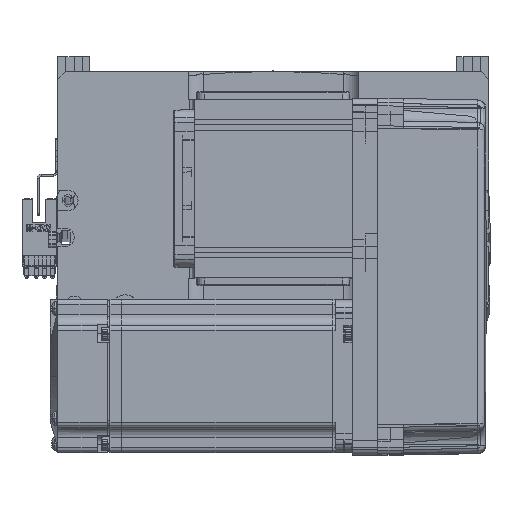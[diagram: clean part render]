
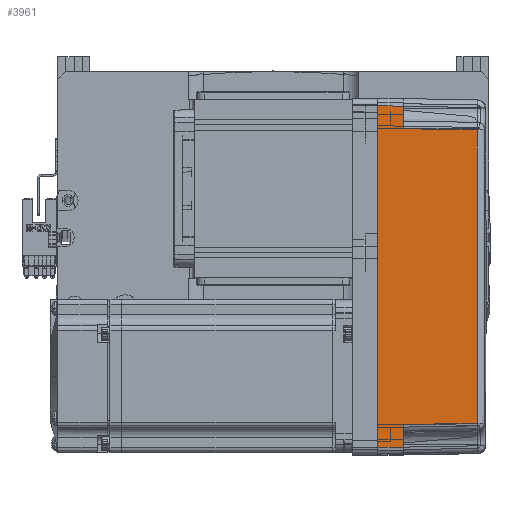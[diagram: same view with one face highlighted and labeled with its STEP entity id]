
A CAD part, top view. The second image highlights one B-rep face of the part: STEP entity #3961.
In plain terms, the highlighted planar face has unit normal (0.018, 0, 1) as drawn and (0, 1, 0.017) by its records, which use the part's own axes.
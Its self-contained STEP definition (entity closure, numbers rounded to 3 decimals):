
#1287 = VECTOR ( 'NONE', #64591, 1000. ) ;
#1376 = DIRECTION ( 'NONE',  ( 0.017, -0.017, 1. ) ) ;
#2113 = B_SPLINE_CURVE_WITH_KNOTS ( 'NONE', 3,
 ( #53775, #58234, #36993, #11495 ),
 .UNSPECIFIED., .F., .F.,
 ( 4, 4 ),
 ( 0., 1. ),
 .UNSPECIFIED. ) ;
#2453 = CARTESIAN_POINT ( 'NONE',  ( 57.495, 35.32, 38.985 ) ) ;
#3961 = ADVANCED_FACE ( 'NONE', ( #29130 ), #21514, .T. ) ;
#5811 = AXIS2_PLACEMENT_3D ( 'NONE', #32774, #64165, #11076 ) ;
#6615 = LINE ( 'NONE', #13541, #9178 ) ;
#9178 = VECTOR ( 'NONE', #46326, 1000. ) ;
#9324 = EDGE_CURVE ( 'NONE', #65567, #40612, #28788, .T. ) ;
#9944 = EDGE_CURVE ( 'NONE', #21735, #18749, #42946, .T. ) ;
#11076 = DIRECTION ( 'NONE',  ( 0., -0.017, 1. ) ) ;
#11495 = CARTESIAN_POINT ( 'NONE',  ( 57.495, 35.32, 38.985 ) ) ;
#12950 = ORIENTED_EDGE ( 'NONE', *, *, #47710, .T. ) ;
#13541 = CARTESIAN_POINT ( 'NONE',  ( 70., 35.825, 10. ) ) ;
#13560 = LINE ( 'NONE', #63289, #65478 ) ;
#13688 = ORIENTED_EDGE ( 'NONE', *, *, #47910, .T. ) ;
#15279 = VERTEX_POINT ( 'NONE', #42464 ) ;
#17012 = VECTOR ( 'NONE', #26720, 1000. ) ;
#17269 = CARTESIAN_POINT ( 'NONE',  ( -66.826, 35.825, 10. ) ) ;
#18164 = VERTEX_POINT ( 'NONE', #26559 ) ;
#18404 = CARTESIAN_POINT ( 'NONE',  ( 67., 36., 0. ) ) ;
#18749 = VERTEX_POINT ( 'NONE', #18404 ) ;
#20256 = ORIENTED_EDGE ( 'NONE', *, *, #9324, .T. ) ;
#21514 = PLANE ( 'NONE',  #5811 ) ;
#21735 = VERTEX_POINT ( 'NONE', #47437 ) ;
#25869 = LINE ( 'NONE', #33213, #59403 ) ;
#25870 = ORIENTED_EDGE ( 'NONE', *, *, #9944, .F. ) ;
#26322 = DIRECTION ( 'NONE',  ( 1., 0., 0. ) ) ;
#26559 = CARTESIAN_POINT ( 'NONE',  ( 66.826, 35.825, 10. ) ) ;
#26720 = DIRECTION ( 'NONE',  ( 1., 0., 0. ) ) ;
#28788 = LINE ( 'NONE', #42997, #32971 ) ;
#29130 = FACE_OUTER_BOUND ( 'NONE', #30269, .T. ) ;
#30269 = EDGE_LOOP ( 'NONE', ( #49500, #20256, #48080, #51349, #12950, #13688, #60699, #25870 ) ) ;
#32774 = CARTESIAN_POINT ( 'NONE',  ( 70., 36., 0. ) ) ;
#32971 = VECTOR ( 'NONE', #26322, 1000. ) ;
#33213 = CARTESIAN_POINT ( 'NONE',  ( 57.495, 35.32, 38.985 ) ) ;
#34336 = CARTESIAN_POINT ( 'NONE',  ( -58., 35.825, 10. ) ) ;
#34610 = VECTOR ( 'NONE', #1376, 1000. ) ;
#35733 = EDGE_CURVE ( 'NONE', #21735, #65567, #68147, .T. ) ;
#36993 = CARTESIAN_POINT ( 'NONE',  ( 19.165, 35.316, 39.181 ) ) ;
#37475 = EDGE_CURVE ( 'NONE', #18749, #18164, #13560, .T. ) ;
#40612 = VERTEX_POINT ( 'NONE', #34336 ) ;
#41318 = DIRECTION ( 'NONE',  ( -0.017, -0.017, 1. ) ) ;
#42464 = CARTESIAN_POINT ( 'NONE',  ( -57.495, 35.32, 38.985 ) ) ;
#42946 = LINE ( 'NONE', #54073, #17012 ) ;
#42997 = CARTESIAN_POINT ( 'NONE',  ( 70., 35.825, 10. ) ) ;
#44685 = EDGE_CURVE ( 'NONE', #15279, #61734, #2113, .T. ) ;
#45645 = LINE ( 'NONE', #59166, #1287 ) ;
#46326 = DIRECTION ( 'NONE',  ( 1., 0., 0. ) ) ;
#47437 = CARTESIAN_POINT ( 'NONE',  ( -67., 36., 0. ) ) ;
#47710 = EDGE_CURVE ( 'NONE', #61734, #59735, #25869, .T. ) ;
#47910 = EDGE_CURVE ( 'NONE', #59735, #18164, #6615, .T. ) ;
#48080 = ORIENTED_EDGE ( 'NONE', *, *, #50385, .T. ) ;
#49500 = ORIENTED_EDGE ( 'NONE', *, *, #35733, .T. ) ;
#50385 = EDGE_CURVE ( 'NONE', #40612, #15279, #45645, .T. ) ;
#51349 = ORIENTED_EDGE ( 'NONE', *, *, #44685, .T. ) ;
#53775 = CARTESIAN_POINT ( 'NONE',  ( -57.495, 35.32, 38.985 ) ) ;
#54073 = CARTESIAN_POINT ( 'NONE',  ( 0., 36., 0. ) ) ;
#54851 = CARTESIAN_POINT ( 'NONE',  ( 58., 35.825, 10. ) ) ;
#58234 = CARTESIAN_POINT ( 'NONE',  ( -19.165, 35.316, 39.181 ) ) ;
#59166 = CARTESIAN_POINT ( 'NONE',  ( -58., 35.825, 10. ) ) ;
#59333 = CARTESIAN_POINT ( 'NONE',  ( -67., 36., 0. ) ) ;
#59403 = VECTOR ( 'NONE', #59406, 1000. ) ;
#59406 = DIRECTION ( 'NONE',  ( 0.017, 0.017, -1. ) ) ;
#59735 = VERTEX_POINT ( 'NONE', #54851 ) ;
#60699 = ORIENTED_EDGE ( 'NONE', *, *, #37475, .F. ) ;
#61734 = VERTEX_POINT ( 'NONE', #2453 ) ;
#63289 = CARTESIAN_POINT ( 'NONE',  ( 67.001, 36.001, -0.052 ) ) ;
#64165 = DIRECTION ( 'NONE',  ( 0., 1., 0.017 ) ) ;
#64591 = DIRECTION ( 'NONE',  ( 0.017, -0.017, 1. ) ) ;
#65478 = VECTOR ( 'NONE', #41318, 1000. ) ;
#65567 = VERTEX_POINT ( 'NONE', #17269 ) ;
#68147 = LINE ( 'NONE', #59333, #34610 ) ;
